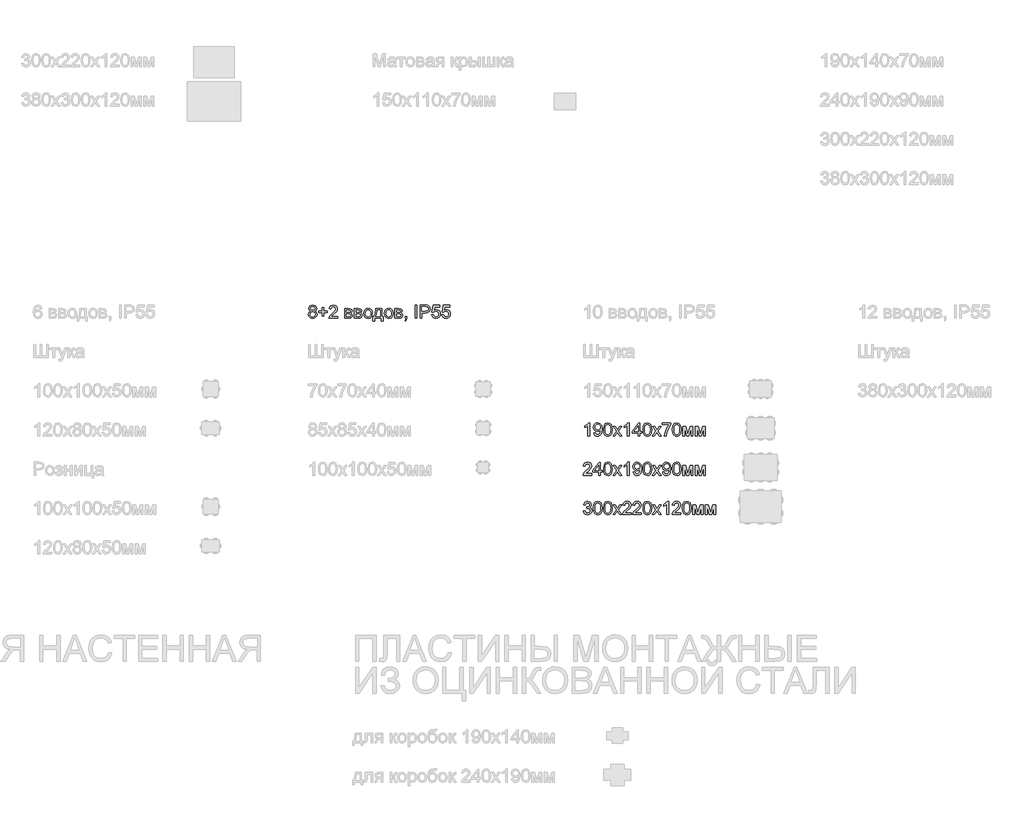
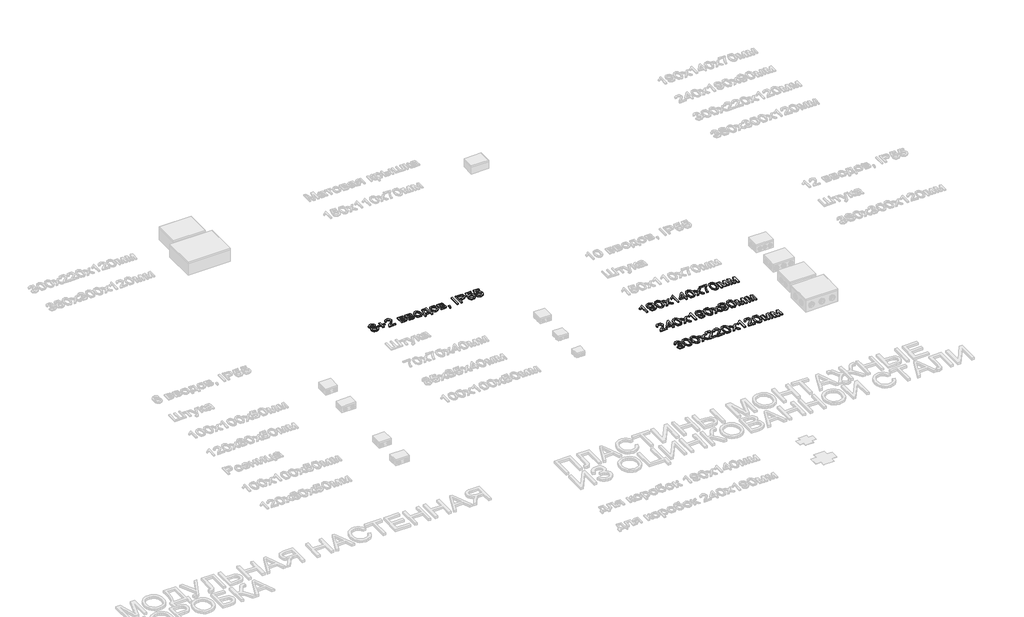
# One storey, part 25 of 98: 4 proxies.
"""IFC4 building model written with IfcOpenShell, lengths in millimetres."""

import ifcopenshell
import ifcopenshell.guid

model = None  # the IFC model being written
_history = None  # IfcOwnerHistory: only IFC2X3 demands one
_inside = {}  # id of a spatial element -> (the spatial element, [elements in it])
_under = {}  # id of a project, library or spatial element -> (it, [spatial elements below it])
_declared = {}  # id of a project -> (the project, [libraries it declares])
_typed = {}  # id of a type object -> (the type object, [elements of that type])
_made_of = {}  # id of a material, layer set ... -> (it, [elements and type objects made of it])


def new_model(schema):
    """Start an empty IFC model of exactly this schema.

    Asked for "IFC4X3", IfcOpenShell would pick the latest addendum, in which some entities
    have other attributes; the version numbers below select the first issue.
    IFC2X3 requires an IfcOwnerHistory on every rooted entity: one is made here for all.
    """
    global model, _history
    if schema == "IFC4X3":
        model = ifcopenshell.file(schema_version=(4, 3, 0, 0))
    else:
        model = ifcopenshell.file(schema=schema)
    _inside.clear()
    _under.clear()
    _declared.clear()
    _typed.clear()
    _made_of.clear()
    _history = None
    if model.schema == "IFC2X3":
        org = make("IfcOrganization", Name="unknown")
        user = make(
            "IfcPersonAndOrganization",
            ThePerson=make("IfcPerson", FamilyName="unknown"),
            TheOrganization=org,
        )
        app = make(
            "IfcApplication",
            ApplicationDeveloper=org,
            Version="unknown",
            ApplicationFullName="unknown",
            ApplicationIdentifier="unknown",
        )
        _history = make(
            "IfcOwnerHistory",
            OwningUser=user,
            OwningApplication=app,
            ChangeAction="ADDED",
            CreationDate=0,
        )
    return model


def make(cls, **values):
    """One entity of the class cls with the attributes given. An attribute that is None is left unset."""
    return model.create_entity(
        cls, **{name: value for name, value in values.items() if value is not None}
    )


def rooted(cls, **values):
    """An entity with a GlobalId (a new one), such as an element, a storey or a relation."""
    return make(cls, GlobalId=ifcopenshell.guid.new(), OwnerHistory=_history, **values)


def si_unit(unit_type, name, prefix=None):
    """IfcSIUnit, for example si_unit("LENGTHUNIT", "METRE", prefix="MILLI")."""
    return make("IfcSIUnit", UnitType=unit_type, Prefix=prefix, Name=name)


def assignment(units):
    """IfcUnitAssignment: the units of a project."""
    return None if units is None else make("IfcUnitAssignment", Units=units)


def point(xyz):
    """IfcCartesianPoint."""
    return None if xyz is None else make("IfcCartesianPoint", Coordinates=xyz)


def direction(xyz):
    """IfcDirection."""
    return None if xyz is None else make("IfcDirection", DirectionRatios=xyz)


def frame(location, z_axis=None, x_axis=None):
    """IfcAxis2Placement3D, a coordinate frame: its origin and axes. An axis left out is left unset."""
    return make(
        "IfcAxis2Placement3D",
        Location=point(location),
        Axis=direction(z_axis),
        RefDirection=direction(x_axis),
    )


def origin():
    """The frame at (0, 0, 0) with its axes left unset."""
    return frame((0.0, 0.0, 0.0))


def origin_with_axes():
    """The frame at (0, 0, 0) with the z axis (0, 0, 1) and the x axis (1, 0, 0) written out."""
    return frame((0.0, 0.0, 0.0), z_axis=(0.0, 0.0, 1.0), x_axis=(1.0, 0.0, 0.0))


def place(relative_to, where):
    """IfcLocalPlacement: puts the frame where relative to a parent placement (None: the world)."""
    return make(
        "IfcLocalPlacement", PlacementRelTo=relative_to, RelativePlacement=where
    )


def context(
    kind, dimensions, precision=None, world=None, true_north=None, identifier=None
):
    """IfcGeometricRepresentationContext, for example the 3D "Model" context."""
    return make(
        "IfcGeometricRepresentationContext",
        ContextIdentifier=identifier,
        ContextType=kind,
        CoordinateSpaceDimension=dimensions,
        Precision=precision,
        WorldCoordinateSystem=world,
        TrueNorth=true_north,
    )


def project(units=None, contexts=None):
    """IfcProject with its units and contexts."""
    return rooted(
        "IfcProject",
        Name="project",
        RepresentationContexts=contexts,
        UnitsInContext=assignment(units),
    )


def spatial(cls, under=None, at=None, **own):
    """A site, building, storey or space (cls), placed at a placement, below another one or the project."""
    s = rooted(cls, ObjectPlacement=at, **own)
    if under is not None:
        _under.setdefault(under.id(), (under, []))[1].append(s)
    return s


def polyline(points):
    """IfcPolyline through the points."""
    return make("IfcPolyline", Points=[point(p) for p in points])


def outline(outer, holes=None, kind="AREA"):
    """IfcArbitraryClosedProfileDef: a profile drawn as a closed curve; with holes, ...WithVoids."""
    if holes is None:
        return make("IfcArbitraryClosedProfileDef", ProfileType=kind, OuterCurve=outer)
    return make(
        "IfcArbitraryProfileDefWithVoids",
        ProfileType=kind,
        OuterCurve=outer,
        InnerCurves=holes,
    )


def extrude(swept, where, along, depth):
    """IfcExtrudedAreaSolid: the profile swept, set in the frame where, extruded along a direction by depth."""
    return make(
        "IfcExtrudedAreaSolid",
        SweptArea=swept,
        Position=where,
        ExtrudedDirection=direction(along),
        Depth=depth,
    )


def shape(context_of_items, identifier, shape_type, items):
    """IfcShapeRepresentation: the items that make up one representation, for example the "Body"."""
    return make(
        "IfcShapeRepresentation",
        ContextOfItems=context_of_items,
        RepresentationIdentifier=identifier,
        RepresentationType=shape_type,
        Items=items,
    )


def made_of(thing, what):
    """Note that an element or type object is made of a material, layer set ...; save() writes the relation."""
    if what is not None:
        _made_of.setdefault(what.id(), (what, []))[1].append(thing)
    return thing


def element(
    cls,
    number,
    at=None,
    inside=None,
    cuts=None,
    type_object=None,
    material=None,
    context=None,
    identifier="Body",
    shape_type=None,
    held_by="IfcProductDefinitionShape",
    body=None,
    shapes=None,
    **own,
):
    """One element of the class cls, such as IfcWall. Its Tag is "e" and its number.

    at: its placement. inside: the storey or other place that contains it. cuts: it is an
    opening in that element (IfcRelVoidsElement). A single representation is given by context,
    identifier, shape_type and body (its items); several are given by shapes. held_by: the class
    of the entity that holds the representations. save() writes the other relations.
    """
    e = rooted(cls, Tag="e%d" % number, ObjectPlacement=at, **own)
    if body is not None:
        shapes = [shape(context, identifier, shape_type, body)]
    if shapes is not None:
        e.Representation = make(held_by, Representations=shapes)
    if inside is not None:
        _inside.setdefault(inside.id(), (inside, []))[1].append(e)
    if cuts is not None:
        rooted(
            "IfcRelVoidsElement", RelatingBuildingElement=cuts, RelatedOpeningElement=e
        )
    if type_object is not None:
        _typed.setdefault(type_object.id(), (type_object, []))[1].append(e)
    return made_of(e, material)


def aggregate(whole, parts):
    """IfcRelAggregates: a whole, such as a stair, and the parts it consists of."""
    return rooted("IfcRelAggregates", RelatingObject=whole, RelatedObjects=parts)


def save(model, path):
    """Write the relations noted so far, then the file.

    IfcRelAggregates (storeys below a building ...), IfcRelContainedInSpatialStructure (elements
    in a storey), IfcRelDefinesByType, IfcRelAssociatesMaterial and IfcRelDeclares: one each for
    every whole, place, type object, material and project.
    """
    for whole, parts in _under.values():
        aggregate(whole, parts)
    for where, things in _inside.values():
        rooted(
            "IfcRelContainedInSpatialStructure",
            RelatedElements=things,
            RelatingStructure=where,
        )
    for kind, things in _typed.values():
        rooted("IfcRelDefinesByType", RelatedObjects=things, RelatingType=kind)
    for what, things in _made_of.values():
        rooted("IfcRelAssociatesMaterial", RelatedObjects=things, RelatingMaterial=what)
    for by, libraries in _declared.values():
        rooted("IfcRelDeclares", RelatingContext=by, RelatedDefinitions=libraries)
    model.write(path)


model = new_model("IFC4")

# Units and contexts
model_context = context("Model", 3, world=origin())
ifc_project = project(units=[si_unit("LENGTHUNIT", "METRE", prefix="MILLI")], contexts=[model_context])

# Site, building, storey
site = spatial("IfcSite", under=ifc_project)
building = spatial("IfcBuilding", under=site)
storey = spatial("IfcBuildingStorey", under=building, Name="Этаж 01", Elevation=0.0)

# Proxies
placement = place(None, origin())
element("IfcBuildingElementProxy", 1, Name="100", ObjectType="100", at=placement, inside=storey, context=model_context, shape_type="SweptSolid", body=[
    extrude(outline(polyline([(8068.7462166, -45104.1827144), (8057.3050866, -45096.3836161), (8053.5894784, -45084.2435102), (8055.6128294, -45074.4271923), (8061.6828823, -45066.3153943), (8071.1190555, -45060.8707408), (8083.2407672, -45059.0558563), (8095.4360554, -45060.9136604), (8104.9948559, -45066.4870726), (8111.1752734, -45074.7276293), (8113.2354126, -45084.5868668), (8109.5688553, -45096.4204043), (8098.4465563, -45104.1827144), (8111.8006728, -45114.0296891), (8116.3746722, -45130.2778106), (8114.1060666, -45142.2830264), (8107.3002497, -45152.2035775), (8096.7910874, -45158.8622416), (8083.4124455, -45161.0817963), (8070.0338036, -45158.8530446), (8059.5246413, -45152.1667893), (8052.7188243, -45142.151202), (8050.4502187, -45129.934454), (8055.2081592, -45113.3061879), (8068.7462166, -45104.1827144)]), holes=[polyline([(8066.1465172, -45084.6113922), (8070.5978893, -45094.4706297), (8083.5595983, -45098.2966025), (8096.2637898, -45094.4951552), (8100.6783738, -45085.175478), (8096.116637, -45075.524707), (8083.4124455, -45071.6128951), (8070.6714657, -45075.4388678), (8066.1465172, -45084.6113922)]), polyline([(8063.0072575, -45129.4929957), (8065.1041849, -45138.9475629), (8072.5231384, -45146.02316), (8083.5105473, -45148.5247575), (8092.0576724, -45147.2095794), (8098.4710818, -45143.264045), (8103.8176335, -45129.8854031), (8098.2994035, -45116.2492438), (8091.7388413, -45112.2025419), (8083.0936144, -45110.8536412), (8074.666051, -45112.1841478), (8068.3170209, -45116.1756674), (8063.0072575, -45129.4929957)])]), origin_with_axes(), (0.0, 0.0, 1.0), 10.0),
    extrude(outline(polyline([(8155.6154184, -45143.815868), (8155.6154184, -45117.1321606), (8128.931711, -45117.1321606), (8128.931711, -45104.5751218), (8155.6154184, -45104.5751218), (8155.6154184, -45077.8914145), (8168.1724572, -45077.8914145), (8168.1724572, -45104.5751218), (8194.8561645, -45104.5751218), (8194.8561645, -45117.1321606), (8168.1724572, -45117.1321606), (8168.1724572, -45143.815868), (8155.6154184, -45143.815868)])), origin_with_axes(), (0.0, 0.0, 1.0), 10.0),
    extrude(outline(polyline([(8273.3376569, -45146.9551277), (8273.3376569, -45159.5121665), (8207.4132033, -45159.5121665), (8208.762104, -45150.8546768), (8216.389524, -45137.5250859), (8232.1103479, -45122.9692216), (8253.7908602, -45102.0489988), (8259.2109882, -45087.8242283), (8254.0974285, -45076.3095219), (8240.7433121, -45071.6128951), (8226.8251099, -45076.1991573), (8221.5398719, -45088.8788234), (8208.9828332, -45087.3091935), (8212.0270567, -45075.1629563), (8218.6090787, -45066.2908689), (8228.3855427, -45060.8646095), (8241.0130922, -45059.0558563), (8253.7326122, -45061.0669445), (8263.4906821, -45067.1002093), (8269.6986908, -45076.1133182), (8271.768027, -45087.0639389), (8269.5362096, -45098.9710528), (8262.117256, -45111.2828369), (8244.1278264, -45128.4874515), (8229.6823268, -45140.5662437), (8224.016944, -45146.9551277), (8273.3376569, -45146.9551277)])), origin_with_axes(), (0.0, 0.0, 1.0), 10.0),
    extrude(outline(polyline([(8328.2747015, -45085.7395637), (8355.9394275, -45085.7395637), (8371.1084284, -45087.4195581), (8379.6432907, -45093.5754502), (8383.2117461, -45104.3053417), (8381.053505, -45113.024145), (8374.5542565, -45119.2413507), (8382.9910169, -45126.0471676), (8386.3510058, -45137.8807051), (8384.2234216, -45147.4517684), (8379.1650441, -45154.1901403), (8371.1574794, -45158.1816599), (8360.1823332, -45159.5121665), (8328.2747015, -45159.5121665), (8328.2747015, -45085.7395637)]), holes=[polyline([(8340.8317402, -45146.9551277), (8356.2337331, -45146.9551277), (8369.8944179, -45144.6865221), (8373.793967, -45136.8506356), (8371.6479887, -45130.8051081), (8366.0561824, -45127.2857037), (8355.0074598, -45126.5499397), (8340.8317402, -45126.5499397), (8340.8317402, -45146.9551277)]), polyline([(8340.8317402, -45113.9929009), (8353.2416262, -45113.9929009), (8363.4810084, -45113.3552388), (8368.4596781, -45110.8045903), (8370.6547073, -45106.1938026), (8366.8042091, -45100.0379106), (8353.6340337, -45098.2966025), (8340.8317402, -45098.2966025), (8340.8317402, -45113.9929009)])]), origin_with_axes(), (0.0, 0.0, 1.0), 10.0),
    extrude(outline(polyline([(8402.0473042, -45085.7395637), (8429.7120303, -45085.7395637), (8444.8810312, -45087.4195581), (8453.4158935, -45093.5754502), (8456.9843488, -45104.3053417), (8454.8261078, -45113.024145), (8448.3268592, -45119.2413507), (8456.7636196, -45126.0471676), (8460.1236085, -45137.8807051), (8457.9960243, -45147.4517684), (8452.9376469, -45154.1901403), (8444.9300821, -45158.1816599), (8433.9549359, -45159.5121665), (8402.0473042, -45159.5121665), (8402.0473042, -45085.7395637)]), holes=[polyline([(8414.604343, -45146.9551277), (8430.0063359, -45146.9551277), (8443.6670206, -45144.6865221), (8447.5665698, -45136.8506356), (8445.4205915, -45130.8051081), (8439.8287851, -45127.2857037), (8428.7800625, -45126.5499397), (8414.604343, -45126.5499397), (8414.604343, -45146.9551277)]), polyline([(8414.604343, -45113.9929009), (8427.014229, -45113.9929009), (8437.2536112, -45113.3552388), (8442.2322808, -45110.8045903), (8444.4273101, -45106.1938026), (8440.5768119, -45100.0379106), (8427.4066364, -45098.2966025), (8414.604343, -45098.2966025), (8414.604343, -45113.9929009)])]), origin_with_axes(), (0.0, 0.0, 1.0), 10.0),
    extrude(outline(polyline([(8472.6806473, -45122.6258651), (8475.3968427, -45104.8387706), (8483.5454289, -45092.3369141), (8493.6131328, -45086.2116789), (8505.6673995, -45084.1699338), (8518.8590348, -45086.656203), (8529.3957882, -45094.1150104), (8536.3027727, -45105.957745), (8538.6051008, -45121.5957955), (8534.5338734, -45143.9384953), (8522.6758105, -45156.5813732), (8505.6673995, -45161.0817963), (8492.3163488, -45158.6047242), (8481.7918581, -45151.1735079), (8474.95845, -45139.082453), (8472.6806473, -45122.6258651)]), holes=[polyline([(8485.2376861, -45122.6013396), (8486.69082, -45133.9658276), (8491.0502216, -45142.0622972), (8497.6107838, -45146.9091424), (8505.6673995, -45148.5247575), (8513.687227, -45146.8999454), (8520.2355265, -45142.025509), (8524.5949282, -45133.8217405), (8526.0480621, -45122.2089321), (8524.5857311, -45111.175538), (8520.1987384, -45103.189433), (8513.6412418, -45098.3425877), (8505.6673995, -45096.7269726), (8497.6107838, -45098.3364563), (8491.0502216, -45103.1649075), (8486.69082, -45111.242983), (8485.2376861, -45122.6013396)])]), origin_with_axes(), (0.0, 0.0, 1.0), 10.0),
    extrude(outline(polyline([(8563.7191784, -45085.7395637), (8610.8080738, -45085.7395637), (8610.8080738, -45146.9551277), (8620.2258528, -45146.9551277), (8620.2258528, -45179.9173545), (8607.6688141, -45179.9173545), (8607.6688141, -45159.5121665), (8555.8710291, -45159.5121665), (8555.8710291, -45179.9173545), (8543.3139904, -45179.9173545), (8543.3139904, -45146.9551277), (8551.1621396, -45146.9551277), (8560.8619616, -45123.0060098), (8563.7191784, -45085.7395637)]), holes=[polyline([(8574.7065873, -45098.2966025), (8571.7635313, -45126.905559), (8565.2888082, -45146.9551277), (8598.251035, -45146.9551277), (8598.251035, -45098.2966025), (8574.7065873, -45098.2966025)])]), origin_with_axes(), (0.0, 0.0, 1.0), 10.0),
    extrude(outline(polyline([(8631.2132618, -45122.6258651), (8633.9294572, -45104.8387706), (8642.0780434, -45092.3369141), (8652.1457473, -45086.2116789), (8664.200014, -45084.1699338), (8677.3916492, -45086.656203), (8687.9284027, -45094.1150104), (8694.8353871, -45105.957745), (8697.1377153, -45121.5957955), (8693.0664879, -45143.9384953), (8681.2084249, -45156.5813732), (8664.200014, -45161.0817963), (8650.8489633, -45158.6047242), (8640.3244725, -45151.1735079), (8633.4910644, -45139.082453), (8631.2132618, -45122.6258651)]), holes=[polyline([(8643.7703005, -45122.6013396), (8645.2234344, -45133.9658276), (8649.5828361, -45142.0622972), (8656.1433983, -45146.9091424), (8664.200014, -45148.5247575), (8672.2198415, -45146.8999454), (8678.768141, -45142.025509), (8683.1275426, -45133.8217405), (8684.5806765, -45122.2089321), (8683.1183456, -45111.175538), (8678.7313528, -45103.189433), (8672.1738562, -45098.3425877), (8664.200014, -45096.7269726), (8656.1433983, -45098.3364563), (8649.5828361, -45103.1649075), (8645.2234344, -45111.242983), (8643.7703005, -45122.6013396)])]), origin_with_axes(), (0.0, 0.0, 1.0), 10.0),
    extrude(outline(polyline([(8711.2643839, -45085.7395637), (8738.9291099, -45085.7395637), (8754.0981109, -45087.4195581), (8762.6329732, -45093.5754502), (8766.2014285, -45104.3053417), (8764.0431875, -45113.024145), (8757.5439389, -45119.2413507), (8765.9806993, -45126.0471676), (8769.3406882, -45137.8807051), (8767.213104, -45147.4517684), (8762.1547266, -45154.1901403), (8754.1471618, -45158.1816599), (8743.1720156, -45159.5121665), (8711.2643839, -45159.5121665), (8711.2643839, -45085.7395637)]), holes=[polyline([(8723.8214227, -45113.9929009), (8736.2313087, -45113.9929009), (8746.4706909, -45113.3552388), (8751.4493605, -45110.8045903), (8753.6443898, -45106.1938026), (8749.7938915, -45100.0379106), (8736.6237161, -45098.2966025), (8723.8214227, -45098.2966025), (8723.8214227, -45113.9929009)]), polyline([(8723.8214227, -45146.9551277), (8739.2234155, -45146.9551277), (8752.8841003, -45144.6865221), (8756.7836494, -45136.8506356), (8754.6376711, -45130.8051081), (8749.0458648, -45127.2857037), (8737.9971422, -45126.5499397), (8723.8214227, -45126.5499397), (8723.8214227, -45146.9551277)])]), origin_with_axes(), (0.0, 0.0, 1.0), 10.0),
    extrude(outline(polyline([(8788.1762464, -45159.5121665), (8788.1762464, -45146.9551277), (8800.7332851, -45146.9551277), (8800.7332851, -45159.5121665), (8798.4769422, -45172.3512481), (8791.3155061, -45179.9173545), (8788.1762464, -45175.2084649), (8792.787034, -45169.7883369), (8794.4302403, -45159.5121665), (8788.1762464, -45159.5121665)])), origin_with_axes(), (0.0, 0.0, 1.0), 10.0),
    extrude(outline(polyline([(8866.6577387, -45159.5121665), (8866.6577387, -45059.0558563), (8879.2147774, -45059.0558563), (8879.2147774, -45159.5121665), (8866.6577387, -45159.5121665)])), origin_with_axes(), (0.0, 0.0, 1.0), 10.0),
    extrude(outline(polyline([(8904.328855, -45159.5121665), (8904.328855, -45059.0558563), (8941.5585129, -45059.0558563), (8956.5680983, -45060.0123495), (8968.7695178, -45064.7089763), (8976.6789807, -45074.421061), (8979.6710876, -45088.1185339), (8977.6508023, -45099.9582028), (8971.5899464, -45109.8235716), (8960.2561153, -45116.4822358), (8942.4169042, -45118.7017905), (8916.8858937, -45118.7017905), (8916.8858937, -45159.5121665), (8904.328855, -45159.5121665)]), holes=[polyline([(8916.8858937, -45106.1447517), (8943.1526682, -45106.1447517), (8961.6448698, -45101.533964), (8965.7467541, -45095.9850773), (8967.1140488, -45088.5599923), (8963.88895, -45078.1611946), (8955.4154014, -45072.4712864), (8942.8583626, -45071.6128951), (8916.8858937, -45071.6128951), (8916.8858937, -45106.1447517)])]), origin_with_axes(), (0.0, 0.0, 1.0), 10.0),
    extrude(outline(polyline([(8992.2281264, -45132.8284591), (9004.7851651, -45131.2588292), (9011.1127354, -45144.1960127), (9024.2338599, -45148.5247575), (9033.2347061, -45147.019507), (9039.9792093, -45142.5037555), (9044.1914582, -45135.4986692), (9045.5955411, -45126.5254142), (9040.3348286, -45111.6139307), (9033.7282811, -45107.5120464), (9024.4300637, -45106.1447517), (9013.4058666, -45108.3275182), (9006.354795, -45113.9929009), (8993.7977562, -45112.4232711), (9004.7851651, -45060.6254862), (9053.4436904, -45060.6254862), (9053.4436904, -45073.1825249), (9014.9387082, -45073.1825249), (9009.5676311, -45100.847251), (9018.5378204, -45095.4025974), (9027.9372054, -45093.5877129), (9039.6695753, -45095.8379245), (9049.4092511, -45102.5885591), (9055.9667477, -45112.8769922), (9058.1525799, -45125.7405993), (9056.1844112, -45138.2976381), (9050.2799052, -45149.0397923), (9038.9736652, -45158.0712953), (9024.184809, -45161.0817963), (9011.8515651, -45159.1473501), (9002.0260502, -45153.3440117), (8995.290744, -45144.3462312), (8992.2281264, -45132.8284591)])), origin_with_axes(), (0.0, 0.0, 1.0), 10.0),
    extrude(outline(polyline([(9069.1399888, -45132.8284591), (9081.6970276, -45131.2588292), (9088.0245979, -45144.1960127), (9101.1457224, -45148.5247575), (9110.1465685, -45147.019507), (9116.8910718, -45142.5037555), (9121.1033206, -45135.4986692), (9122.5074036, -45126.5254142), (9117.2466911, -45111.6139307), (9110.6401436, -45107.5120464), (9101.3419261, -45106.1447517), (9090.317729, -45108.3275182), (9083.2666574, -45113.9929009), (9070.7096187, -45112.4232711), (9081.6970276, -45060.6254862), (9130.3555528, -45060.6254862), (9130.3555528, -45073.1825249), (9091.8505707, -45073.1825249), (9086.4794935, -45100.847251), (9095.4496828, -45095.4025974), (9104.8490678, -45093.5877129), (9116.5814378, -45095.8379245), (9126.3211136, -45102.5885591), (9132.8786102, -45112.8769922), (9135.0644424, -45125.7405993), (9133.0962737, -45138.2976381), (9127.1917677, -45149.0397923), (9115.8855277, -45158.0712953), (9101.0966715, -45161.0817963), (9088.7634276, -45159.1473501), (9078.9379126, -45153.3440117), (9072.2026064, -45144.3462312), (9069.1399888, -45132.8284591)])), origin_with_axes(), (0.0, 0.0, 1.0), 10.0),
])
element("IfcBuildingElementProxy", 2, Name="100", ObjectType="100", at=placement, inside=storey, context=model_context, shape_type="SweptSolid", body=[
    extrude(outline(polyline([(10214.8050424, -46346.9551277), (10214.8050424, -46359.5121665), (10148.8805889, -46359.5121665), (10150.2294895, -46350.8546768), (10157.8569095, -46337.5250859), (10173.5777335, -46322.9692216), (10195.2582457, -46302.0489988), (10200.6783738, -46287.8242283), (10195.5648141, -46276.3095219), (10182.2106976, -46271.6128951), (10168.2924955, -46276.1991573), (10163.0072575, -46288.8788234), (10150.4502187, -46287.3091935), (10153.4944422, -46275.1629563), (10160.0764642, -46266.2908689), (10169.8529283, -46260.8646095), (10182.4804778, -46259.0558563), (10195.1999977, -46261.0669445), (10204.9580677, -46267.1002093), (10211.1660763, -46276.1133182), (10213.2354126, -46287.0639389), (10211.0035951, -46298.9710528), (10203.5846415, -46311.2828369), (10185.595212, -46328.4874515), (10171.1497123, -46340.5662437), (10165.4843296, -46346.9551277), (10214.8050424, -46346.9551277)])), origin_with_axes(), (0.0, 0.0, 1.0), 10.0),
    extrude(outline(polyline([(10268.1724572, -46359.5121665), (10268.1724572, -46335.9677188), (10222.6531916, -46335.9677188), (10222.6531916, -46323.41068), (10271.3117169, -46260.6254862), (10280.7294959, -46260.6254862), (10280.7294959, -46323.41068), (10293.2865347, -46323.41068), (10293.2865347, -46335.9677188), (10280.7294959, -46335.9677188), (10280.7294959, -46359.5121665), (10268.1724572, -46359.5121665)]), holes=[polyline([(10268.1724572, -46323.41068), (10268.1724572, -46284.6113922), (10238.1042354, -46323.41068), (10268.1724572, -46323.41068)])]), origin_with_axes(), (0.0, 0.0, 1.0), 10.0),
    extrude(outline(polyline([(10304.2739436, -46310.0933518), (10307.9650263, -46281.1900897), (10318.9279098, -46264.5250353), (10337.2361704, -46259.0558563), (10351.9023993, -46262.2932179), (10362.0314169, -46271.6251578), (10367.9175288, -46286.4875904), (10370.1983972, -46310.0933518), (10366.5441027, -46338.8739865), (10355.6180074, -46355.5758291), (10347.3866478, -46359.7053045), (10337.2361704, -46361.0817963), (10324.1886223, -46358.6905633), (10314.2803339, -46351.5168644), (10306.7755412, -46334.5268476), (10304.2739436, -46310.0933518)]), holes=[polyline([(10316.8309824, -46310.0688263), (10318.3025104, -46329.8210238), (10322.7170943, -46341.2529568), (10329.2899193, -46346.7068073), (10337.2361704, -46348.5247575), (10345.1824215, -46346.700676), (10351.7552465, -46341.2284313), (10356.1698304, -46329.7903669), (10357.6413584, -46310.0688263), (10356.2188813, -46290.7611529), (10351.9514502, -46279.2403151), (10345.390888, -46273.5197501), (10337.0890176, -46271.6128951), (10329.2286056, -46273.2928895), (10322.913298, -46278.3328729), (10318.3515613, -46290.5710806), (10316.8309824, -46310.0688263)])]), origin_with_axes(), (0.0, 0.0, 1.0), 10.0),
    extrude(outline(polyline([(10376.4769165, -46359.5121665), (10403.3077767, -46322.4296613), (10378.0465464, -46285.7395637), (10393.1542337, -46285.7395637), (10405.3433904, -46303.3978995), (10411.0332986, -46311.736558), (10415.9629174, -46304.9184784), (10429.8443313, -46285.7395637), (10444.9520186, -46285.7395637), (10418.415464, -46322.4296613), (10443.9709999, -46359.5121665), (10428.8633127, -46359.5121665), (10413.4858453, -46337.2185176), (10410.6654166, -46333.1472901), (10391.5846038, -46359.5121665), (10376.4769165, -46359.5121665)])), origin_with_axes(), (0.0, 0.0, 1.0), 10.0),
    extrude(outline(polyline([(10498.9080445, -46359.5121665), (10486.3510058, -46359.5121665), (10486.3510058, -46281.2268779), (10474.4561546, -46289.7004265), (10461.2369282, -46296.0402596), (10461.2369282, -46284.1699338), (10479.6432907, -46272.4222355), (10490.8146406, -46259.0558563), (10498.9080445, -46259.0558563), (10498.9080445, -46359.5121665)])), origin_with_axes(), (0.0, 0.0, 1.0), 10.0),
    extrude(outline(polyline([(10530.3006415, -46334.3980889), (10542.8576802, -46332.8284591), (10548.4985375, -46344.8091494), (10559.1916408, -46348.5247575), (10569.3574466, -46346.1335246), (10576.2491027, -46339.7446406), (10580.3571183, -46328.8308081), (10582.1720028, -46314.2626811), (10582.0984264, -46311.8101344), (10572.0552479, -46321.3260154), (10558.2841986, -46324.9803098), (10546.8338715, -46322.7484924), (10537.3026621, -46316.0530401), (10530.8739242, -46305.7094247), (10528.7310116, -46292.5331179), (10530.9781575, -46278.921484), (10537.719595, -46268.2529062), (10547.8455469, -46261.3551188), (10560.2462359, -46259.0558563), (10578.1375636, -46264.3043061), (10590.4493477, -46279.2648406), (10594.6554652, -46307.371025), (10590.4616104, -46337.8684424), (10585.2468831, -46347.8595043), (10577.9904108, -46355.1466334), (10569.004893, -46359.5980056), (10558.6030296, -46361.0817963), (10547.8670067, -46359.3312911), (10539.3014876, -46354.0797757), (10533.3111425, -46345.6583437), (10530.3006415, -46334.3980889)]), holes=[polyline([(10582.0984264, -46292.2388123), (10580.7433944, -46283.7284755), (10576.6782983, -46277.1801759), (10570.3691221, -46273.0047153), (10562.2818496, -46271.6128951), (10553.8941401, -46273.1120142), (10547.1741623, -46277.6093716), (10542.7595784, -46284.4918306), (10541.2880504, -46293.1462545), (10542.6798706, -46300.9054989), (10546.8553312, -46307.0644567), (10553.4097621, -46311.0835675), (10561.938493, -46312.4232711), (10576.4207809, -46307.0644567), (10580.679015, -46300.6786384), (10582.0984264, -46292.2388123)])]), origin_with_axes(), (0.0, 0.0, 1.0), 10.0),
    extrude(outline(polyline([(10605.6428741, -46310.0933518), (10609.3339568, -46281.1900897), (10620.2968402, -46264.5250353), (10638.6051008, -46259.0558563), (10653.2713297, -46262.2932179), (10663.4003473, -46271.6251578), (10669.2864592, -46286.4875904), (10671.5673276, -46310.0933518), (10667.9130331, -46338.8739865), (10656.9869379, -46355.5758291), (10648.7555782, -46359.7053045), (10638.6051008, -46361.0817963), (10625.5575527, -46358.6905633), (10615.6492643, -46351.5168644), (10608.1444716, -46334.5268476), (10605.6428741, -46310.0933518)]), holes=[polyline([(10618.1999128, -46310.0688263), (10619.6714408, -46329.8210238), (10624.0860248, -46341.2529568), (10630.6588497, -46346.7068073), (10638.6051008, -46348.5247575), (10646.5513519, -46346.700676), (10653.1241769, -46341.2284313), (10657.5387609, -46329.7903669), (10659.0102888, -46310.0688263), (10657.5878118, -46290.7611529), (10653.3203806, -46279.2403151), (10646.7598184, -46273.5197501), (10638.457948, -46271.6128951), (10630.5975361, -46273.2928895), (10624.2822285, -46278.3328729), (10619.7204918, -46290.5710806), (10618.1999128, -46310.0688263)])]), origin_with_axes(), (0.0, 0.0, 1.0), 10.0),
    extrude(outline(polyline([(10677.845847, -46359.5121665), (10704.6767072, -46322.4296613), (10679.4154768, -46285.7395637), (10694.5231641, -46285.7395637), (10706.7123209, -46303.3978995), (10712.4022291, -46311.736558), (10717.3318478, -46304.9184784), (10731.2132618, -46285.7395637), (10746.320949, -46285.7395637), (10719.7843944, -46322.4296613), (10745.3399304, -46359.5121665), (10730.2322431, -46359.5121665), (10714.8547757, -46337.2185176), (10712.0343471, -46333.1472901), (10692.9535343, -46359.5121665), (10677.845847, -46359.5121665)])), origin_with_axes(), (0.0, 0.0, 1.0), 10.0),
    extrude(outline(polyline([(10754.7577095, -46334.3980889), (10767.3147482, -46332.8284591), (10772.9556055, -46344.8091494), (10783.6487088, -46348.5247575), (10793.8145146, -46346.1335246), (10800.7061707, -46339.7446406), (10804.8141863, -46328.8308081), (10806.6290708, -46314.2626811), (10806.5554944, -46311.8101344), (10796.5123159, -46321.3260154), (10782.7412666, -46324.9803098), (10771.2909395, -46322.7484924), (10761.7597301, -46316.0530401), (10755.3309922, -46305.7094247), (10753.1880796, -46292.5331179), (10755.4352255, -46278.921484), (10762.176663, -46268.2529062), (10772.3026149, -46261.3551188), (10784.7033039, -46259.0558563), (10802.5946316, -46264.3043061), (10814.9064157, -46279.2648406), (10819.1125331, -46307.371025), (10814.9186784, -46337.8684424), (10809.7039511, -46347.8595043), (10802.4474788, -46355.1466334), (10793.461961, -46359.5980056), (10783.0600976, -46361.0817963), (10772.3240747, -46359.3312911), (10763.7585556, -46354.0797757), (10757.7682104, -46345.6583437), (10754.7577095, -46334.3980889)]), holes=[polyline([(10806.5554944, -46292.2388123), (10805.2004624, -46283.7284755), (10801.1353663, -46277.1801759), (10794.8261901, -46273.0047153), (10786.7389176, -46271.6128951), (10778.3512081, -46273.1120142), (10771.6312303, -46277.6093716), (10767.2166464, -46284.4918306), (10765.7451184, -46293.1462545), (10767.1369386, -46300.9054989), (10771.3123992, -46307.0644567), (10777.8668301, -46311.0835675), (10786.395561, -46312.4232711), (10800.8778489, -46307.0644567), (10805.136083, -46300.6786384), (10806.5554944, -46292.2388123)])]), origin_with_axes(), (0.0, 0.0, 1.0), 10.0),
    extrude(outline(polyline([(10830.0999421, -46310.0933518), (10833.7910247, -46281.1900897), (10844.7539082, -46264.5250353), (10863.0621688, -46259.0558563), (10877.7283977, -46262.2932179), (10887.8574153, -46271.6251578), (10893.7435272, -46286.4875904), (10896.0243956, -46310.0933518), (10892.3701011, -46338.8739865), (10881.4440059, -46355.5758291), (10873.2126462, -46359.7053045), (10863.0621688, -46361.0817963), (10850.0146207, -46358.6905633), (10840.1063323, -46351.5168644), (10832.6015396, -46334.5268476), (10830.0999421, -46310.0933518)]), holes=[polyline([(10842.6569808, -46310.0688263), (10844.1285088, -46329.8210238), (10848.5430928, -46341.2529568), (10855.1159177, -46346.7068073), (10863.0621688, -46348.5247575), (10871.0084199, -46346.700676), (10877.5812449, -46341.2284313), (10881.9958289, -46329.7903669), (10883.4673568, -46310.0688263), (10882.0448798, -46290.7611529), (10877.7774486, -46279.2403151), (10871.2168864, -46273.5197501), (10862.915016, -46271.6128951), (10855.0546041, -46273.2928895), (10848.7392965, -46278.3328729), (10844.1775597, -46290.5710806), (10842.6569808, -46310.0688263)])]), origin_with_axes(), (0.0, 0.0, 1.0), 10.0),
    extrude(outline(polyline([(10910.1510642, -46285.7395637), (10931.7580001, -46285.7395637), (10948.4107917, -46344.7968867), (10966.3634331, -46285.7395637), (10987.0629267, -46285.7395637), (10987.0629267, -46359.5121665), (10974.5058879, -46359.5121665), (10974.5058879, -46300.111487), (10956.4551447, -46359.5121665), (10939.9740313, -46359.5121665), (10922.708103, -46297.2665329), (10922.708103, -46359.5121665), (10910.1510642, -46359.5121665), (10910.1510642, -46285.7395637)])), origin_with_axes(), (0.0, 0.0, 1.0), 10.0),
    extrude(outline(polyline([(11005.8984848, -46285.7395637), (11027.5054207, -46285.7395637), (11044.1582123, -46344.7968867), (11062.1108537, -46285.7395637), (11082.8103473, -46285.7395637), (11082.8103473, -46359.5121665), (11070.2533085, -46359.5121665), (11070.2533085, -46300.111487), (11052.2025653, -46359.5121665), (11035.7214519, -46359.5121665), (11018.4555236, -46297.2665329), (11018.4555236, -46359.5121665), (11005.8984848, -46359.5121665), (11005.8984848, -46285.7395637)])), origin_with_axes(), (0.0, 0.0, 1.0), 10.0),
])
element("IfcBuildingElementProxy", 3, Name="100", ObjectType="100", at=placement, inside=storey, context=model_context, shape_type="SweptSolid", body=[
    extrude(outline(polyline([(10197.5391141, -46059.5121665), (10184.9820753, -46059.5121665), (10184.9820753, -45981.2268779), (10173.0872241, -45989.7004265), (10159.8679978, -45996.0402596), (10159.8679978, -45984.1699338), (10178.2743603, -45972.4222355), (10189.4457102, -45959.0558563), (10197.5391141, -45959.0558563), (10197.5391141, -46059.5121665)])), origin_with_axes(), (0.0, 0.0, 1.0), 10.0),
    extrude(outline(polyline([(10228.931711, -46034.3980889), (10241.4887498, -46032.8284591), (10247.129607, -46044.8091494), (10257.8227104, -46048.5247575), (10267.9885162, -46046.1335246), (10274.8801722, -46039.7446406), (10278.9881878, -46028.8308081), (10280.8030723, -46014.2626811), (10280.7294959, -46011.8101344), (10270.6863175, -46021.3260154), (10256.9152681, -46024.9803098), (10245.464941, -46022.7484924), (10235.9337317, -46016.0530401), (10229.5049938, -46005.7094247), (10227.3620812, -45992.5331179), (10229.609227, -45978.921484), (10236.3506646, -45968.2529062), (10246.4766165, -45961.3551188), (10258.8773054, -45959.0558563), (10276.7686331, -45964.3043061), (10289.0804172, -45979.2648406), (10293.2865347, -46007.371025), (10289.09268, -46037.8684424), (10283.8779527, -46047.8595043), (10276.6214803, -46055.1466334), (10267.6359626, -46059.5980056), (10257.2340992, -46061.0817963), (10246.4980763, -46059.3312911), (10237.9325572, -46054.0797757), (10231.942212, -46045.6583437), (10228.931711, -46034.3980889)]), holes=[polyline([(10280.7294959, -45992.2388123), (10279.3744639, -45983.7284755), (10275.3093679, -45977.1801759), (10269.0001917, -45973.0047153), (10260.9129191, -45971.6128951), (10252.5252096, -45973.1120142), (10245.8052319, -45977.6093716), (10241.3906479, -45984.4918306), (10239.9191199, -45993.1462545), (10241.3109402, -46000.9054989), (10245.4864008, -46007.0644567), (10252.0408317, -46011.0835675), (10260.5695626, -46012.4232711), (10275.0518505, -46007.0644567), (10279.3100846, -46000.6786384), (10280.7294959, -45992.2388123)])]), origin_with_axes(), (0.0, 0.0, 1.0), 10.0),
    extrude(outline(polyline([(10304.2739436, -46010.0933518), (10307.9650263, -45981.1900897), (10318.9279098, -45964.5250353), (10337.2361704, -45959.0558563), (10351.9023993, -45962.2932179), (10362.0314169, -45971.6251578), (10367.9175288, -45986.4875904), (10370.1983972, -46010.0933518), (10366.5441027, -46038.8739865), (10355.6180074, -46055.5758291), (10347.3866478, -46059.7053045), (10337.2361704, -46061.0817963), (10324.1886223, -46058.6905633), (10314.2803339, -46051.5168644), (10306.7755412, -46034.5268476), (10304.2739436, -46010.0933518)]), holes=[polyline([(10316.8309824, -46010.0688263), (10318.3025104, -46029.8210238), (10322.7170943, -46041.2529568), (10329.2899193, -46046.7068073), (10337.2361704, -46048.5247575), (10345.1824215, -46046.700676), (10351.7552465, -46041.2284313), (10356.1698304, -46029.7903669), (10357.6413584, -46010.0688263), (10356.2188813, -45990.7611529), (10351.9514502, -45979.2403151), (10345.390888, -45973.5197501), (10337.0890176, -45971.6128951), (10329.2286056, -45973.2928895), (10322.913298, -45978.3328729), (10318.3515613, -45990.5710806), (10316.8309824, -46010.0688263)])]), origin_with_axes(), (0.0, 0.0, 1.0), 10.0),
    extrude(outline(polyline([(10376.4769165, -46059.5121665), (10403.3077767, -46022.4296613), (10378.0465464, -45985.7395637), (10393.1542337, -45985.7395637), (10405.3433904, -46003.3978995), (10411.0332986, -46011.736558), (10415.9629174, -46004.9184784), (10429.8443313, -45985.7395637), (10444.9520186, -45985.7395637), (10418.415464, -46022.4296613), (10443.9709999, -46059.5121665), (10428.8633127, -46059.5121665), (10413.4858453, -46037.2185176), (10410.6654166, -46033.1472901), (10391.5846038, -46059.5121665), (10376.4769165, -46059.5121665)])), origin_with_axes(), (0.0, 0.0, 1.0), 10.0),
    extrude(outline(polyline([(10498.9080445, -46059.5121665), (10486.3510058, -46059.5121665), (10486.3510058, -45981.2268779), (10474.4561546, -45989.7004265), (10461.2369282, -45996.0402596), (10461.2369282, -45984.1699338), (10479.6432907, -45972.4222355), (10490.8146406, -45959.0558563), (10498.9080445, -45959.0558563), (10498.9080445, -46059.5121665)])), origin_with_axes(), (0.0, 0.0, 1.0), 10.0),
    extrude(outline(polyline([(10569.5413876, -46059.5121665), (10569.5413876, -46035.9677188), (10524.0221221, -46035.9677188), (10524.0221221, -46023.41068), (10572.6806473, -45960.6254862), (10582.0984264, -45960.6254862), (10582.0984264, -46023.41068), (10594.6554652, -46023.41068), (10594.6554652, -46035.9677188), (10582.0984264, -46035.9677188), (10582.0984264, -46059.5121665), (10569.5413876, -46059.5121665)]), holes=[polyline([(10569.5413876, -46023.41068), (10569.5413876, -45984.6113922), (10539.4731659, -46023.41068), (10569.5413876, -46023.41068)])]), origin_with_axes(), (0.0, 0.0, 1.0), 10.0),
    extrude(outline(polyline([(10605.6428741, -46010.0933518), (10609.3339568, -45981.1900897), (10620.2968402, -45964.5250353), (10638.6051008, -45959.0558563), (10653.2713297, -45962.2932179), (10663.4003473, -45971.6251578), (10669.2864592, -45986.4875904), (10671.5673276, -46010.0933518), (10667.9130331, -46038.8739865), (10656.9869379, -46055.5758291), (10648.7555782, -46059.7053045), (10638.6051008, -46061.0817963), (10625.5575527, -46058.6905633), (10615.6492643, -46051.5168644), (10608.1444716, -46034.5268476), (10605.6428741, -46010.0933518)]), holes=[polyline([(10618.1999128, -46010.0688263), (10619.6714408, -46029.8210238), (10624.0860248, -46041.2529568), (10630.6588497, -46046.7068073), (10638.6051008, -46048.5247575), (10646.5513519, -46046.700676), (10653.1241769, -46041.2284313), (10657.5387609, -46029.7903669), (10659.0102888, -46010.0688263), (10657.5878118, -45990.7611529), (10653.3203806, -45979.2403151), (10646.7598184, -45973.5197501), (10638.457948, -45971.6128951), (10630.5975361, -45973.2928895), (10624.2822285, -45978.3328729), (10619.7204918, -45990.5710806), (10618.1999128, -46010.0688263)])]), origin_with_axes(), (0.0, 0.0, 1.0), 10.0),
    extrude(outline(polyline([(10677.845847, -46059.5121665), (10704.6767072, -46022.4296613), (10679.4154768, -45985.7395637), (10694.5231641, -45985.7395637), (10706.7123209, -46003.3978995), (10712.4022291, -46011.736558), (10717.3318478, -46004.9184784), (10731.2132618, -45985.7395637), (10746.320949, -45985.7395637), (10719.7843944, -46022.4296613), (10745.3399304, -46059.5121665), (10730.2322431, -46059.5121665), (10714.8547757, -46037.2185176), (10712.0343471, -46033.1472901), (10692.9535343, -46059.5121665), (10677.845847, -46059.5121665)])), origin_with_axes(), (0.0, 0.0, 1.0), 10.0),
    extrude(outline(polyline([(10753.1880796, -45973.1825249), (10753.1880796, -45960.6254862), (10819.1125331, -45960.6254862), (10819.1125331, -45970.7790292), (10800.4118651, -45997.7938304), (10786.1012554, -46032.2153224), (10781.4414168, -46059.5121665), (10768.8843781, -46059.5121665), (10773.8753105, -46031.1852528), (10787.5727834, -45999.1672565), (10806.5554944, -45973.1825249), (10753.1880796, -45973.1825249)])), origin_with_axes(), (0.0, 0.0, 1.0), 10.0),
    extrude(outline(polyline([(10830.0999421, -46010.0933518), (10833.7910247, -45981.1900897), (10844.7539082, -45964.5250353), (10863.0621688, -45959.0558563), (10877.7283977, -45962.2932179), (10887.8574153, -45971.6251578), (10893.7435272, -45986.4875904), (10896.0243956, -46010.0933518), (10892.3701011, -46038.8739865), (10881.4440059, -46055.5758291), (10873.2126462, -46059.7053045), (10863.0621688, -46061.0817963), (10850.0146207, -46058.6905633), (10840.1063323, -46051.5168644), (10832.6015396, -46034.5268476), (10830.0999421, -46010.0933518)]), holes=[polyline([(10842.6569808, -46010.0688263), (10844.1285088, -46029.8210238), (10848.5430928, -46041.2529568), (10855.1159177, -46046.7068073), (10863.0621688, -46048.5247575), (10871.0084199, -46046.700676), (10877.5812449, -46041.2284313), (10881.9958289, -46029.7903669), (10883.4673568, -46010.0688263), (10882.0448798, -45990.7611529), (10877.7774486, -45979.2403151), (10871.2168864, -45973.5197501), (10862.915016, -45971.6128951), (10855.0546041, -45973.2928895), (10848.7392965, -45978.3328729), (10844.1775597, -45990.5710806), (10842.6569808, -46010.0688263)])]), origin_with_axes(), (0.0, 0.0, 1.0), 10.0),
    extrude(outline(polyline([(10910.1510642, -45985.7395637), (10931.7580001, -45985.7395637), (10948.4107917, -46044.7968867), (10966.3634331, -45985.7395637), (10987.0629267, -45985.7395637), (10987.0629267, -46059.5121665), (10974.5058879, -46059.5121665), (10974.5058879, -46000.111487), (10956.4551447, -46059.5121665), (10939.9740313, -46059.5121665), (10922.708103, -45997.2665329), (10922.708103, -46059.5121665), (10910.1510642, -46059.5121665), (10910.1510642, -45985.7395637)])), origin_with_axes(), (0.0, 0.0, 1.0), 10.0),
    extrude(outline(polyline([(11005.8984848, -45985.7395637), (11027.5054207, -45985.7395637), (11044.1582123, -46044.7968867), (11062.1108537, -45985.7395637), (11082.8103473, -45985.7395637), (11082.8103473, -46059.5121665), (11070.2533085, -46059.5121665), (11070.2533085, -46000.111487), (11052.2025653, -46059.5121665), (11035.7214519, -46059.5121665), (11018.4555236, -45997.2665329), (11018.4555236, -46059.5121665), (11005.8984848, -46059.5121665), (11005.8984848, -45985.7395637)])), origin_with_axes(), (0.0, 0.0, 1.0), 10.0),
])
element("IfcBuildingElementProxy", 4, Name="100", ObjectType="100", at=placement, inside=storey, context=model_context, shape_type="SweptSolid", body=[
    extrude(outline(polyline([(10150.4502187, -46632.8284591), (10163.0072575, -46631.2588292), (10169.9357017, -46644.4780556), (10182.8974107, -46648.5247575), (10191.5058494, -46647.1329373), (10198.1522508, -46642.9574767), (10203.8176335, -46629.1741646), (10198.2013017, -46616.1879302), (10183.9274803, -46611.049845), (10175.1228379, -46612.4232711), (10176.5207894, -46599.8662323), (10178.5318777, -46600.0133851), (10192.7811736, -46596.4081416), (10197.5268514, -46591.8341421), (10199.1087439, -46585.3226308), (10194.5224817, -46575.5001815), (10182.701207, -46571.6128951), (10170.7327794, -46575.5369697), (10164.5768873, -46587.3091935), (10152.0198486, -46585.7395637), (10155.7170626, -46574.4639805), (10162.296019, -46566.0456142), (10171.2968651, -46560.8032958), (10182.2597486, -46559.0558563), (10197.404224, -46562.5016843), (10207.9992255, -46571.9194634), (10211.6657827, -46584.5868668), (10208.1831665, -46596.1628869), (10197.8824706, -46604.47702), (10211.5676808, -46613.0609332), (10216.3746722, -46629.3948938), (10213.9711765, -46641.6331015), (10206.7606894, -46651.860221), (10195.8775137, -46658.7764025), (10182.4559523, -46661.0817963), (10170.3158464, -46659.1136276), (10160.4320835, -46653.2091216), (10153.5588216, -46644.1776186), (10150.4502187, -46632.8284591)])), origin_with_axes(), (0.0, 0.0, 1.0), 10.0),
    extrude(outline(polyline([(10227.3620812, -46610.0933518), (10231.0531639, -46581.1900897), (10242.0160473, -46564.5250353), (10260.3243079, -46559.0558563), (10274.9905368, -46562.2932179), (10285.1195544, -46571.6251578), (10291.0056663, -46586.4875904), (10293.2865347, -46610.0933518), (10289.6322402, -46638.8739865), (10278.706145, -46655.5758291), (10270.4747853, -46659.7053045), (10260.3243079, -46661.0817963), (10247.2767598, -46658.6905633), (10237.3684714, -46651.5168644), (10229.8636787, -46634.5268476), (10227.3620812, -46610.0933518)]), holes=[polyline([(10239.9191199, -46610.0688263), (10241.3906479, -46629.8210238), (10245.8052319, -46641.2529568), (10252.3780568, -46646.7068073), (10260.3243079, -46648.5247575), (10268.270559, -46646.700676), (10274.843384, -46641.2284313), (10279.257968, -46629.7903669), (10280.7294959, -46610.0688263), (10279.3070189, -46590.7611529), (10275.0395877, -46579.2403151), (10268.4790255, -46573.5197501), (10260.1771551, -46571.6128951), (10252.3167432, -46573.2928895), (10246.0014356, -46578.3328729), (10241.4396988, -46590.5710806), (10239.9191199, -46610.0688263)])]), origin_with_axes(), (0.0, 0.0, 1.0), 10.0),
    extrude(outline(polyline([(10304.2739436, -46610.0933518), (10307.9650263, -46581.1900897), (10318.9279098, -46564.5250353), (10337.2361704, -46559.0558563), (10351.9023993, -46562.2932179), (10362.0314169, -46571.6251578), (10367.9175288, -46586.4875904), (10370.1983972, -46610.0933518), (10366.5441027, -46638.8739865), (10355.6180074, -46655.5758291), (10347.3866478, -46659.7053045), (10337.2361704, -46661.0817963), (10324.1886223, -46658.6905633), (10314.2803339, -46651.5168644), (10306.7755412, -46634.5268476), (10304.2739436, -46610.0933518)]), holes=[polyline([(10316.8309824, -46610.0688263), (10318.3025104, -46629.8210238), (10322.7170943, -46641.2529568), (10329.2899193, -46646.7068073), (10337.2361704, -46648.5247575), (10345.1824215, -46646.700676), (10351.7552465, -46641.2284313), (10356.1698304, -46629.7903669), (10357.6413584, -46610.0688263), (10356.2188813, -46590.7611529), (10351.9514502, -46579.2403151), (10345.390888, -46573.5197501), (10337.0890176, -46571.6128951), (10329.2286056, -46573.2928895), (10322.913298, -46578.3328729), (10318.3515613, -46590.5710806), (10316.8309824, -46610.0688263)])]), origin_with_axes(), (0.0, 0.0, 1.0), 10.0),
    extrude(outline(polyline([(10376.4769165, -46659.5121665), (10403.3077767, -46622.4296613), (10378.0465464, -46585.7395637), (10393.1542337, -46585.7395637), (10405.3433904, -46603.3978995), (10411.0332986, -46611.736558), (10415.9629174, -46604.9184784), (10429.8443313, -46585.7395637), (10444.9520186, -46585.7395637), (10418.415464, -46622.4296613), (10443.9709999, -46659.5121665), (10428.8633127, -46659.5121665), (10413.4858453, -46637.2185176), (10410.6654166, -46633.1472901), (10391.5846038, -46659.5121665), (10376.4769165, -46659.5121665)])), origin_with_axes(), (0.0, 0.0, 1.0), 10.0),
    extrude(outline(polyline([(10516.1739728, -46646.9551277), (10516.1739728, -46659.5121665), (10450.2495193, -46659.5121665), (10451.59842, -46650.8546768), (10459.22584, -46637.5250859), (10474.9466639, -46622.9692216), (10496.6271762, -46602.0489988), (10502.0473042, -46587.8242283), (10496.9337445, -46576.3095219), (10483.5796281, -46571.6128951), (10469.6614259, -46576.1991573), (10464.3761879, -46588.8788234), (10451.8191492, -46587.3091935), (10454.8633727, -46575.1629563), (10461.4453947, -46566.2908689), (10471.2218587, -46560.8646095), (10483.8494082, -46559.0558563), (10496.5689282, -46561.0669445), (10506.3269981, -46567.1002093), (10512.5350068, -46576.1133182), (10514.604343, -46587.0639389), (10512.3725256, -46598.9710528), (10504.953572, -46611.2828369), (10486.9641424, -46628.4874515), (10472.5186428, -46640.5662437), (10466.85326, -46646.9551277), (10516.1739728, -46646.9551277)])), origin_with_axes(), (0.0, 0.0, 1.0), 10.0),
    extrude(outline(polyline([(10593.0858353, -46646.9551277), (10593.0858353, -46659.5121665), (10527.1613818, -46659.5121665), (10528.5102824, -46650.8546768), (10536.1377025, -46637.5250859), (10551.8585264, -46622.9692216), (10573.5390386, -46602.0489988), (10578.9591667, -46587.8242283), (10573.845607, -46576.3095219), (10560.4914905, -46571.6128951), (10546.5732884, -46576.1991573), (10541.2880504, -46588.8788234), (10528.7310116, -46587.3091935), (10531.7752351, -46575.1629563), (10538.3572572, -46566.2908689), (10548.1337212, -46560.8646095), (10560.7612707, -46559.0558563), (10573.4807906, -46561.0669445), (10583.2388606, -46567.1002093), (10589.4468692, -46576.1133182), (10591.5162055, -46587.0639389), (10589.284388, -46598.9710528), (10581.8654345, -46611.2828369), (10563.8760049, -46628.4874515), (10549.4305052, -46640.5662437), (10543.7651225, -46646.9551277), (10593.0858353, -46646.9551277)])), origin_with_axes(), (0.0, 0.0, 1.0), 10.0),
    extrude(outline(polyline([(10605.6428741, -46610.0933518), (10609.3339568, -46581.1900897), (10620.2968402, -46564.5250353), (10638.6051008, -46559.0558563), (10653.2713297, -46562.2932179), (10663.4003473, -46571.6251578), (10669.2864592, -46586.4875904), (10671.5673276, -46610.0933518), (10667.9130331, -46638.8739865), (10656.9869379, -46655.5758291), (10648.7555782, -46659.7053045), (10638.6051008, -46661.0817963), (10625.5575527, -46658.6905633), (10615.6492643, -46651.5168644), (10608.1444716, -46634.5268476), (10605.6428741, -46610.0933518)]), holes=[polyline([(10618.1999128, -46610.0688263), (10619.6714408, -46629.8210238), (10624.0860248, -46641.2529568), (10630.6588497, -46646.7068073), (10638.6051008, -46648.5247575), (10646.5513519, -46646.700676), (10653.1241769, -46641.2284313), (10657.5387609, -46629.7903669), (10659.0102888, -46610.0688263), (10657.5878118, -46590.7611529), (10653.3203806, -46579.2403151), (10646.7598184, -46573.5197501), (10638.457948, -46571.6128951), (10630.5975361, -46573.2928895), (10624.2822285, -46578.3328729), (10619.7204918, -46590.5710806), (10618.1999128, -46610.0688263)])]), origin_with_axes(), (0.0, 0.0, 1.0), 10.0),
    extrude(outline(polyline([(10677.845847, -46659.5121665), (10704.6767072, -46622.4296613), (10679.4154768, -46585.7395637), (10694.5231641, -46585.7395637), (10706.7123209, -46603.3978995), (10712.4022291, -46611.736558), (10717.3318478, -46604.9184784), (10731.2132618, -46585.7395637), (10746.320949, -46585.7395637), (10719.7843944, -46622.4296613), (10745.3399304, -46659.5121665), (10730.2322431, -46659.5121665), (10714.8547757, -46637.2185176), (10712.0343471, -46633.1472901), (10692.9535343, -46659.5121665), (10677.845847, -46659.5121665)])), origin_with_axes(), (0.0, 0.0, 1.0), 10.0),
    extrude(outline(polyline([(10800.276975, -46659.5121665), (10787.7199362, -46659.5121665), (10787.7199362, -46581.2268779), (10775.825085, -46589.7004265), (10762.6058587, -46596.0402596), (10762.6058587, -46584.1699338), (10781.0122212, -46572.4222355), (10792.1835711, -46559.0558563), (10800.276975, -46559.0558563), (10800.276975, -46659.5121665)])), origin_with_axes(), (0.0, 0.0, 1.0), 10.0),
    extrude(outline(polyline([(10894.4547658, -46646.9551277), (10894.4547658, -46659.5121665), (10828.5303122, -46659.5121665), (10829.8792129, -46650.8546768), (10837.5066329, -46637.5250859), (10853.2274568, -46622.9692216), (10874.9079691, -46602.0489988), (10880.3280971, -46587.8242283), (10875.2145374, -46576.3095219), (10861.860421, -46571.6128951), (10847.9422188, -46576.1991573), (10842.6569808, -46588.8788234), (10830.0999421, -46587.3091935), (10833.1441656, -46575.1629563), (10839.7261876, -46566.2908689), (10849.5026516, -46560.8646095), (10862.1302011, -46559.0558563), (10874.8497211, -46561.0669445), (10884.607791, -46567.1002093), (10890.8157997, -46576.1133182), (10892.8851359, -46587.0639389), (10890.6533185, -46598.9710528), (10883.2343649, -46611.2828369), (10865.2449353, -46628.4874515), (10850.7994357, -46640.5662437), (10845.1340529, -46646.9551277), (10894.4547658, -46646.9551277)])), origin_with_axes(), (0.0, 0.0, 1.0), 10.0),
    extrude(outline(polyline([(10907.0118045, -46610.0933518), (10910.7028872, -46581.1900897), (10921.6657707, -46564.5250353), (10939.9740313, -46559.0558563), (10954.6402602, -46562.2932179), (10964.7692778, -46571.6251578), (10970.6553897, -46586.4875904), (10972.9362581, -46610.0933518), (10969.2819636, -46638.8739865), (10958.3558683, -46655.5758291), (10950.1245087, -46659.7053045), (10939.9740313, -46661.0817963), (10926.9264832, -46658.6905633), (10917.0181948, -46651.5168644), (10909.5134021, -46634.5268476), (10907.0118045, -46610.0933518)]), holes=[polyline([(10919.5688433, -46610.0688263), (10921.0403713, -46629.8210238), (10925.4549552, -46641.2529568), (10932.0277802, -46646.7068073), (10939.9740313, -46648.5247575), (10947.9202824, -46646.700676), (10954.4931074, -46641.2284313), (10958.9076913, -46629.7903669), (10960.3792193, -46610.0688263), (10958.9567422, -46590.7611529), (10954.6893111, -46579.2403151), (10948.1287489, -46573.5197501), (10939.8268785, -46571.6128951), (10931.9664665, -46573.2928895), (10925.6511589, -46578.3328729), (10921.0894222, -46590.5710806), (10919.5688433, -46610.0688263)])]), origin_with_axes(), (0.0, 0.0, 1.0), 10.0),
    extrude(outline(polyline([(10987.0629267, -46585.7395637), (11008.6698625, -46585.7395637), (11025.3226542, -46644.7968867), (11043.2752955, -46585.7395637), (11063.9747891, -46585.7395637), (11063.9747891, -46659.5121665), (11051.4177504, -46659.5121665), (11051.4177504, -46600.111487), (11033.3670071, -46659.5121665), (11016.8858937, -46659.5121665), (10999.6199654, -46597.2665329), (10999.6199654, -46659.5121665), (10987.0629267, -46659.5121665), (10987.0629267, -46585.7395637)])), origin_with_axes(), (0.0, 0.0, 1.0), 10.0),
    extrude(outline(polyline([(11082.8103473, -46585.7395637), (11104.4172831, -46585.7395637), (11121.0700748, -46644.7968867), (11139.0227161, -46585.7395637), (11159.7222097, -46585.7395637), (11159.7222097, -46659.5121665), (11147.165171, -46659.5121665), (11147.165171, -46600.111487), (11129.1144277, -46659.5121665), (11112.6333144, -46659.5121665), (11095.3673861, -46597.2665329), (11095.3673861, -46659.5121665), (11082.8103473, -46659.5121665), (11082.8103473, -46585.7395637)])), origin_with_axes(), (0.0, 0.0, 1.0), 10.0),
])

save(model, "model.ifc")
